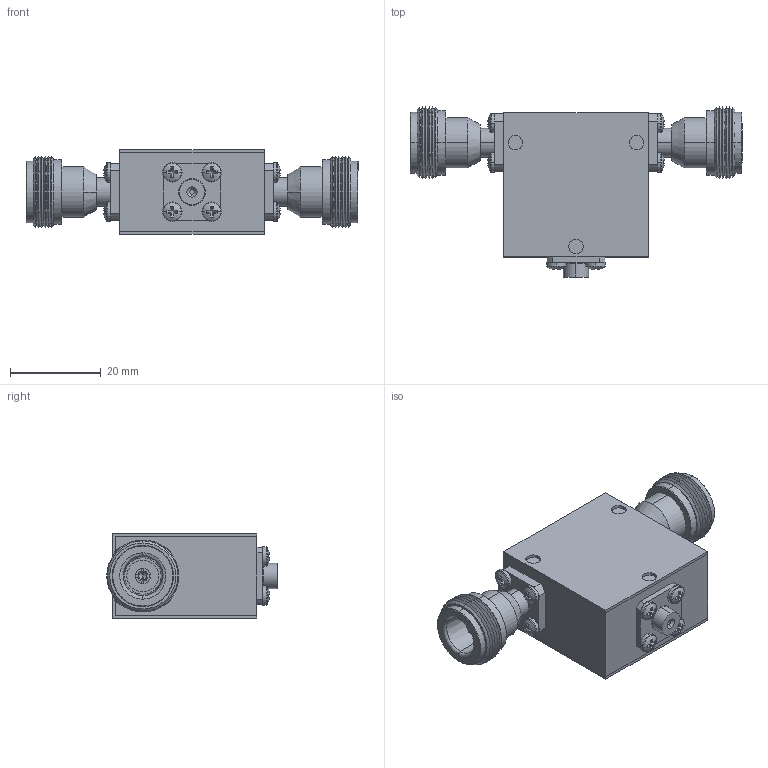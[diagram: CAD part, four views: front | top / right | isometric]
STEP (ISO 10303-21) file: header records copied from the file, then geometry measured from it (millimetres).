
FILE_DESCRIPTION (( 'STEP AP214' ), '1' );
FILE_NAME ('Package 8 Iso FF Type-N.step', '2021-12-01T21:02:20', ( '' ), ( '' ), 'SwSTEP 2.0', 'SolidWorks 2016', '' );
FILE_SCHEMA (( 'AUTOMOTIVE_DESIGN' ));
Length unit declared in the file: inch
Products named in the file (6): pan cross head_ai_CR-PHMS 0.086-56x0.125x0.125-N; Package 8; Package 8 Iso FF Type-N; 030013-1A; Package Size 8; Type-N Female 0.500 flange
Assembly tree (17 placements, depth 2):
  Package 8 Iso FF Type-N
    Package Size 8
    Package 8
    Type-N Female 0.500 flange  x2
    pan cross head_ai_CR-PHMS 0.086-56x0.125x0.125-N  x12
    030013-1A
Bounding box: 73.1 x 37.51 x 18.54 mm (x, y, z)
Volume: 22819.8 mm3; surface area: 14503.9 mm2
Topology: 17 solids, 17 shells, 584 faces, 1330 edges, 814 vertices
Faces by surface type: plane 278, cylinder 160, cone 92, torus 26, sphere 24, bspline 4
Entity records: 6487 total; most frequent: DIRECTION 1169, CARTESIAN_POINT 1131, ORIENTED_EDGE 978, EDGE_CURVE 489, AXIS2_PLACEMENT_3D 473, VERTEX_POINT 307, EDGE_LOOP 252, CIRCLE 248
